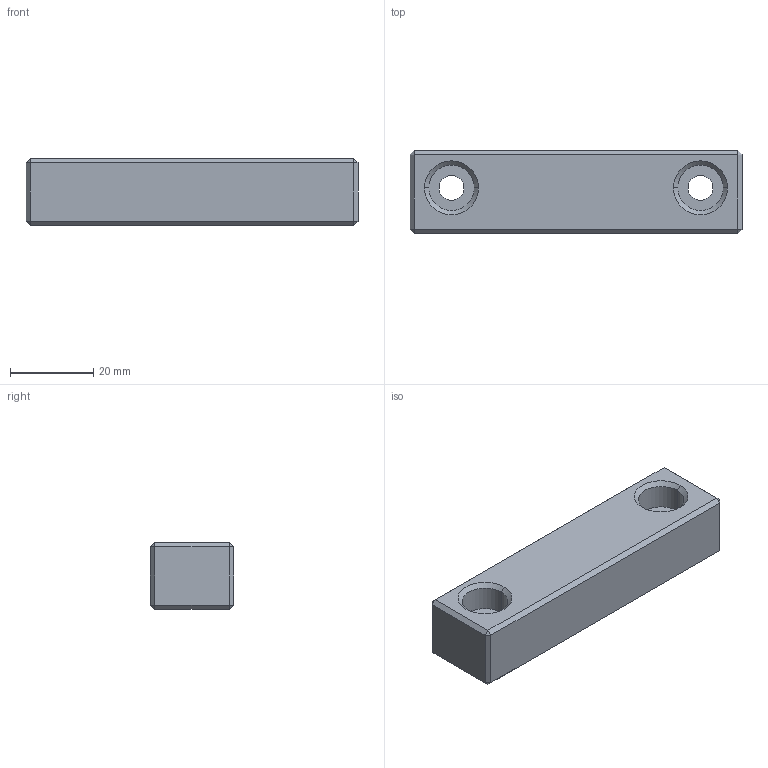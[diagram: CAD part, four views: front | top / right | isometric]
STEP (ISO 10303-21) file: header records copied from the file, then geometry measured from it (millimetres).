
FILE_DESCRIPTION (( 'STEP AP214' ), '1' );
FILE_NAME ('BR3143-20-16-80.STEP', '2020-06-30T08:40:11', ( '' ), ( '' ), 'SwSTEP 2.0', 'SolidWorks 2018', '' );
FILE_SCHEMA (( 'AUTOMOTIVE_DESIGN' ));
Length unit declared in the file: millimetre
Products named in the file (1): BR3143-20-16-80
Bounding box: 80 x 20 x 16 mm (x, y, z)
Volume: 23476.3 mm3; surface area: 6777.8 mm2
Topology: 1 solids, 1 shells, 44 faces, 88 edges, 48 vertices
Faces by surface type: plane 28, cone 8, cylinder 8
Entity records: 1142 total; most frequent: DIRECTION 202, CARTESIAN_POINT 181, ORIENTED_EDGE 176, EDGE_CURVE 88, AXIS2_PLACEMENT_3D 69, VECTOR 64, LINE 64, EDGE_LOOP 50
